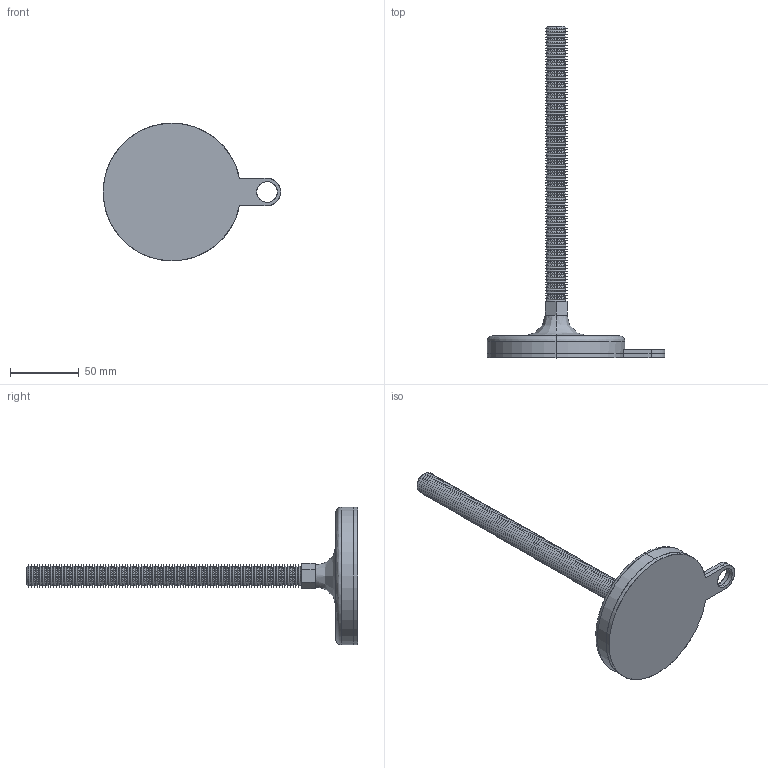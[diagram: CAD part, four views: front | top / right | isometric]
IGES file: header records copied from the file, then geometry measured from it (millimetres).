
Start section: SolidWorks IGES file using analytic representation for surfaces
Global section: file name: C:\Users\liam_\OneDrive\Documents\WORK\Work for WixRoyd\Job Files\J-00026 - Matt Davis CAD - 20191124\04. CAD Drawings\Wixroyd20191124\34704_v2\34704_v2_20191128_IGES\34704.W1607.igs; native system: SolidWorks 2017; preprocessor: SolidWorks 2017; author: liam_; date: 191128.202629; units: millimetre
Bounding box: 129 x 241 x 100 mm (x, y, z)
Surface area: 56867.6 mm2 (no closed solid volume)
Topology: 0 solids, 0 shells, 441 faces, 2396 edges, 2396 vertices
Faces by surface type: revolution 409, bspline 32
